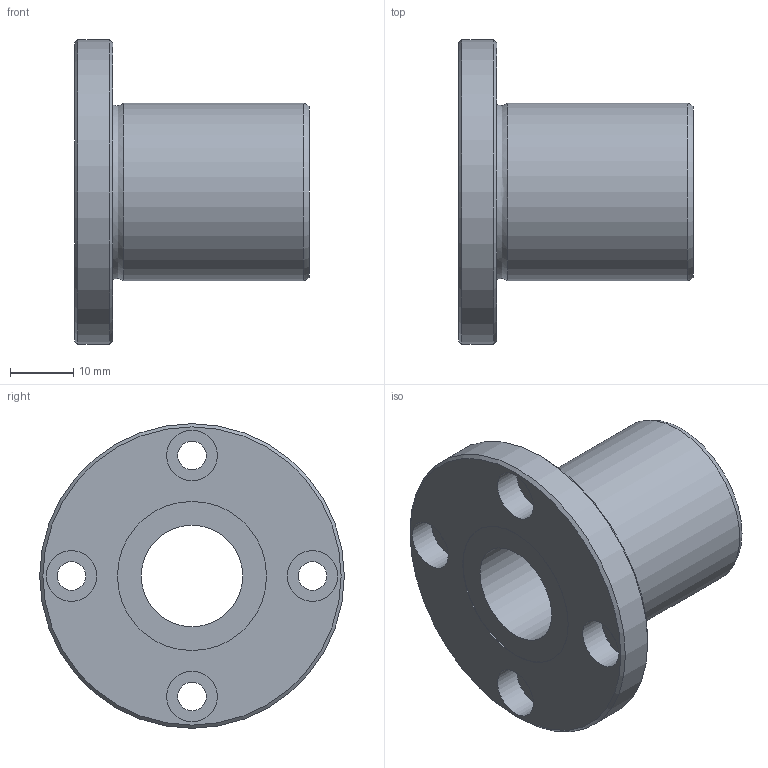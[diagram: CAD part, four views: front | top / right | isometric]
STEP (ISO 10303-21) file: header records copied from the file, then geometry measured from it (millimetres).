
FILE_DESCRIPTION((''),'2;1');
FILE_NAME('D:\製品 (図面)\カタログ用3D\リニアベアリング関連\STEP形式\LF\LF16B.stp','2010-06-03T09:13:25',('Tsuchiya'),(''),'Autodesk Inventor 10','Autodesk Inventor 10','');
FILE_SCHEMA(('AUTOMOTIVE_DESIGN { 1 0 10303 214 1 1 1 1 }'));
Length unit declared in the file: millimetre
Products named in the file (1): LF16B
Bounding box: 37 x 48 x 48 mm (x, y, z)
Volume: 21385.4 mm3; surface area: 9019.2 mm2
Topology: 1 solids, 1 shells, 26 faces, 47 edges, 30 vertices
Faces by surface type: cylinder 13, plane 9, cone 2, torus 1, bspline 1
Full cylindrical faces by diameter (mm): 4.5 x4, 8 x4, 16 x1, 23.5 x2, 28 x1, 48 x1
Entity records: 665 total; most frequent: CARTESIAN_POINT 149, DIRECTION 112, ORIENTED_EDGE 60, EDGE_LOOP 60, AXIS2_PLACEMENT_3D 56, FACE_BOUND 34, VERTEX_POINT 30, CIRCLE 30
